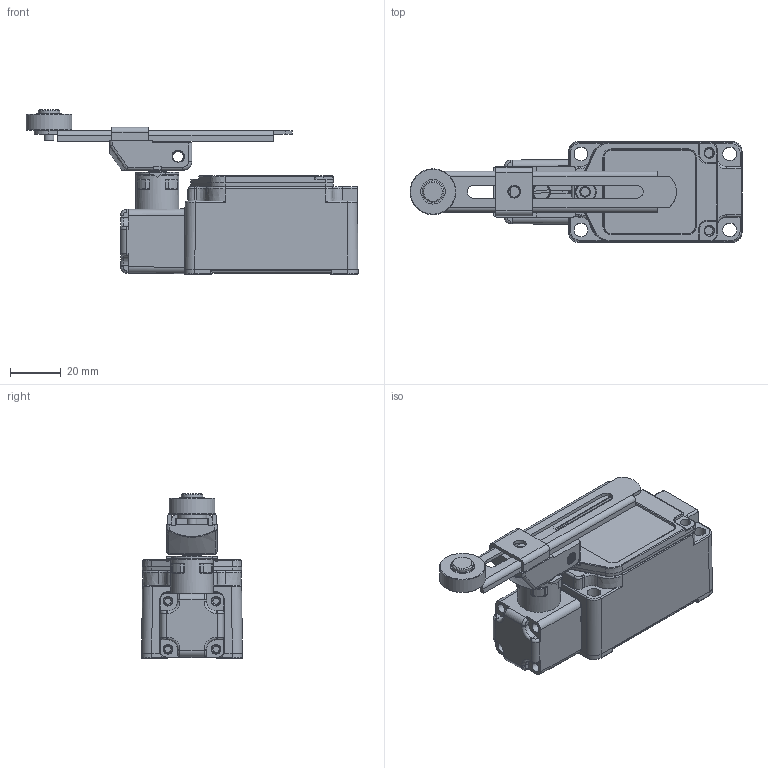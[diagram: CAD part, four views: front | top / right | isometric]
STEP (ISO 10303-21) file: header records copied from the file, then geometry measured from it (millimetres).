
FILE_DESCRIPTION(('FreeCAD Model'),'2;1');
FILE_NAME('Open CASCADE Shape Model','2026-09-09T09:12:20',(''),(''), 'Open CASCADE STEP processor 7.8','FreeCAD','Unknown');
FILE_SCHEMA(('AUTOMOTIVE_DESIGN { 1 0 10303 214 1 1 1 1 }'));
Length unit declared in the file: millimetre
Products named in the file (12): FM5108; 1; 2; 3; 4; 5; 6; 7; 8; 9; 10; 11
Assembly tree (11 placements, depth 2):
  FM5108
    1
    2
    3
    4
    5
    6
    7
    8
    9
    10
    11
Bounding box: 130.95 x 39.83 x 64.9 mm (x, y, z)
Volume: 68245.9 mm3; surface area: 46282.6 mm2
Topology: 11 solids, 11 shells, 1052 faces, 2680 edges, 1677 vertices
Faces by surface type: plane 409, cylinder 358, cone 99, bspline 83, torus 81, sphere 22
Full cylindrical faces by diameter (mm): 2.5 x4, 2.6 x1, 2.687 x3, 3.394 x2, 3.402 x1, 3.8 x4, 3.9 x1, 4 x1, 4.221 x3, 4.379 x3, 5 x2, 5.4 x4, 5.5 x1, 5.9 x1, 6.1 x1, 6.6 x1, 6.966 x4, 7.1 x1, 8.5 x1, 8.7 x1, 9.7 x2, 9.95 x1, 9.952 x3, 10 x3, 12 x1, 13 x1, 14.689 x1, 17 x1, 18.1 x1
Entity records: 43935 total; most frequent: CARTESIAN_POINT 18548, ORIENTED_EDGE 5344, DIRECTION 5176, EDGE_CURVE 2672, AXIS2_PLACEMENT_3D 1931, VERTEX_POINT 1677, LINE 1314, VECTOR 1314
